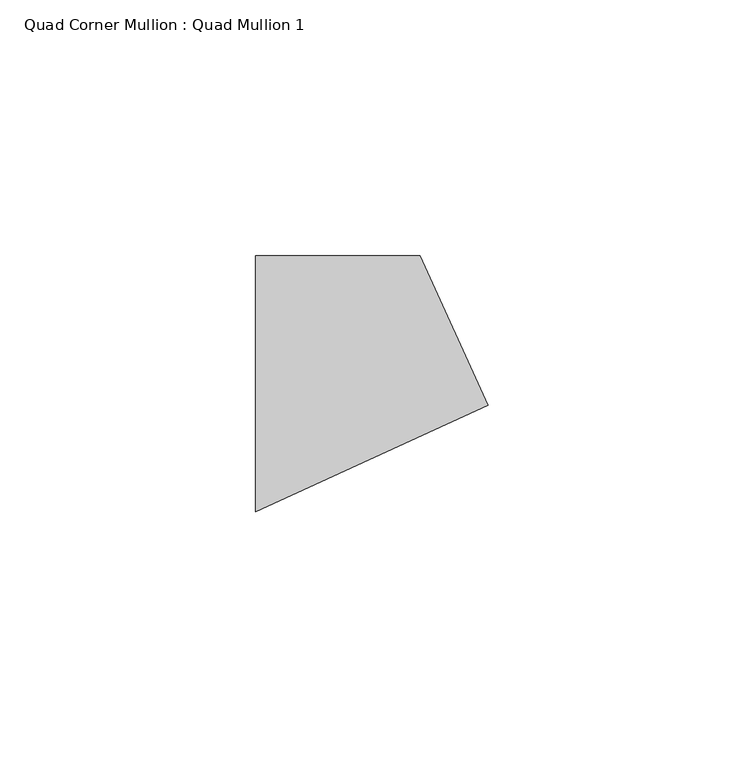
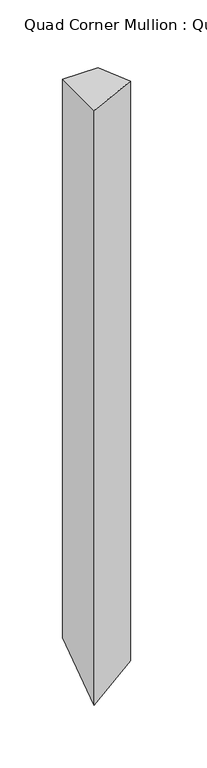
"""IFC4 building model written with IfcOpenShell, lengths in millimetres: member geometry, Quad Corner Mullion : Quad Mullion 1."""

from ifc_helpers import new_model, si_unit, origin, place, context, project, spatial, faceted_brep, source, transform, mapped, element, save


def quad_corner_mullion_quad_mullion_1_4ef090d5(model_context):
    return source(origin(), model_context, "Body", "Brep", [
        faceted_brep([(29.4125559, -4.1926582, 0.0), (16.0523154, 25.0, 0.0), (-16.0523154, 25.0, 0.0), (-16.0523154, -25.0, 0.0), (29.4125559, -4.1926582, -561.4401052), (16.0523154, 25.0, -540.9991859), (-16.0523154, 25.0, -540.9991859), (-16.0523154, -25.0, -576.0095628)], [[[0, 1, 2, 3]], [[1, 0, 4, 5]], [[2, 1, 5, 6]], [[3, 2, 6, 7]], [[0, 3, 7, 4]], [[4, 7, 6, 5]]]),
    ])


if __name__ == "__main__":
    model = new_model("IFC4")
    model_context = context("Model", 3, world=origin())
    ifc_project = project(units=[si_unit("LENGTHUNIT", "METRE", prefix="MILLI")], contexts=[model_context])
    site = spatial("IfcSite", under=ifc_project)
    building = spatial("IfcBuilding", under=site)
    placement = place(None, origin())
    quad_corner_mullion_quad_mullion_1_shape = quad_corner_mullion_quad_mullion_1_4ef090d5(model_context)
    element("IfcMember", 1, ObjectType="Quad Corner Mullion : Quad Mullion 1", at=placement, inside=building, context=model_context, shape_type="MappedRepresentation", body=[
        mapped(quad_corner_mullion_quad_mullion_1_shape, transform((0.0, 0.0, 0.0), x_axis=(1.0, 0.0, 0.0), y_axis=(0.0, 1.0, 0.0), z_axis=(0.0, 0.0, 1.0))),
    ])
    save(model, "model.ifc")
